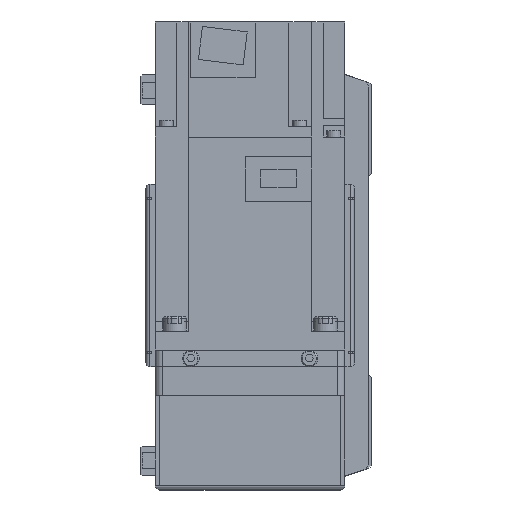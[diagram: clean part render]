
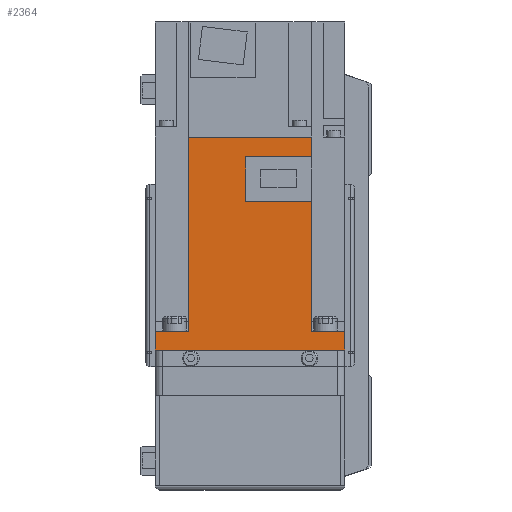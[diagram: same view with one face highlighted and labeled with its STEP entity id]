
A CAD part, left-side view. The second image highlights one B-rep face of the part: STEP entity #2364.
In plain terms, the highlighted planar face has unit normal (-1, 0, 0) as drawn and (1, 0, 0) by its records, which use the part's own axes.
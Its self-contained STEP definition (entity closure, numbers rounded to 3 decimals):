
#2364 = ADVANCED_FACE( '', ( #5318 ), #5319, .F. );
#5318 = FACE_OUTER_BOUND( '', #8874, .T. );
#5319 = PLANE( '', #8875 );
#8874 = EDGE_LOOP( '', ( #15612, #15613, #15614, #15615, #15616, #15617, #15618, #15619, #15620, #15621, #15622, #15623 ) );
#8875 = AXIS2_PLACEMENT_3D( '', #15624, #15625, #15626 );
#15612 = ORIENTED_EDGE( '', *, *, #22641, .F. );
#15613 = ORIENTED_EDGE( '', *, *, #22180, .F. );
#15614 = ORIENTED_EDGE( '', *, *, #20570, .F. );
#15615 = ORIENTED_EDGE( '', *, *, #22642, .T. );
#15616 = ORIENTED_EDGE( '', *, *, #22643, .F. );
#15617 = ORIENTED_EDGE( '', *, *, #22644, .T. );
#15618 = ORIENTED_EDGE( '', *, *, #22645, .T. );
#15619 = ORIENTED_EDGE( '', *, *, #20221, .F. );
#15620 = ORIENTED_EDGE( '', *, *, #20791, .F. );
#15621 = ORIENTED_EDGE( '', *, *, #22182, .F. );
#15622 = ORIENTED_EDGE( '', *, *, #22646, .F. );
#15623 = ORIENTED_EDGE( '', *, *, #21043, .F. );
#15624 = CARTESIAN_POINT( '', ( 40., 89.8, 40. ) );
#15625 = DIRECTION( '', ( -1., 0., 0. ) );
#15626 = DIRECTION( '', ( 0., 0., 1. ) );
#20221 = EDGE_CURVE( '', #24055, #24057, #24058, .T. );
#20570 = EDGE_CURVE( '', #24665, #24661, #24667, .T. );
#20791 = EDGE_CURVE( '', #25057, #24055, #25058, .T. );
#21043 = EDGE_CURVE( '', #25488, #25489, #25490, .T. );
#22180 = EDGE_CURVE( '', #24661, #27273, #27274, .T. );
#22182 = EDGE_CURVE( '', #27275, #25057, #27277, .T. );
#22641 = EDGE_CURVE( '', #27273, #25488, #27924, .T. );
#22642 = EDGE_CURVE( '', #24665, #27925, #27926, .T. );
#22643 = EDGE_CURVE( '', #27927, #27925, #27928, .T. );
#22644 = EDGE_CURVE( '', #27927, #27929, #27930, .T. );
#22645 = EDGE_CURVE( '', #27929, #24057, #27931, .T. );
#22646 = EDGE_CURVE( '', #25489, #27275, #27932, .T. );
#24055 = VERTEX_POINT( '', #29789 );
#24057 = VERTEX_POINT( '', #29792 );
#24058 = LINE( '', #29793, #29794 );
#24661 = VERTEX_POINT( '', #30738 );
#24665 = VERTEX_POINT( '', #30744 );
#24667 = LINE( '', #30747, #30748 );
#25057 = VERTEX_POINT( '', #31360 );
#25058 = LINE( '', #31361, #31362 );
#25488 = VERTEX_POINT( '', #31928 );
#25489 = VERTEX_POINT( '', #31929 );
#25490 = LINE( '', #31930, #31931 );
#27273 = VERTEX_POINT( '', #34675 );
#27274 = LINE( '', #34676, #34677 );
#27275 = VERTEX_POINT( '', #34678 );
#27277 = LINE( '', #34681, #34682 );
#27924 = LINE( '', #35759, #35760 );
#27925 = VERTEX_POINT( '', #35761 );
#27926 = LINE( '', #35762, #35763 );
#27927 = VERTEX_POINT( '', #35764 );
#27928 = LINE( '', #35765, #35766 );
#27929 = VERTEX_POINT( '', #35767 );
#27930 = LINE( '', #35768, #35769 );
#27931 = LINE( '', #35770, #35771 );
#27932 = LINE( '', #35772, #35773 );
#29789 = CARTESIAN_POINT( '', ( 40., 8., -40. ) );
#29792 = CARTESIAN_POINT( '', ( 40., 0., -40. ) );
#29793 = CARTESIAN_POINT( '', ( 40., 89.8, -40. ) );
#29794 = VECTOR( '', #37771, 1000. );
#30738 = CARTESIAN_POINT( '', ( 40., 89.8, -25.95 ) );
#30744 = CARTESIAN_POINT( '', ( 40., 89.8, 25.95 ) );
#30747 = CARTESIAN_POINT( '', ( 40., 89.8, 40. ) );
#30748 = VECTOR( '', #38171, 1000. );
#31360 = CARTESIAN_POINT( '', ( 40., 8., -25.95 ) );
#31361 = CARTESIAN_POINT( '', ( 40., 8., 40. ) );
#31362 = VECTOR( '', #38466, 1000. );
#31928 = CARTESIAN_POINT( '', ( 40., 81.4, 1.8 ) );
#31929 = CARTESIAN_POINT( '', ( 40., 62.8, 1.8 ) );
#31930 = CARTESIAN_POINT( '', ( 40., 81.4, 1.8 ) );
#31931 = VECTOR( '', #38832, 1000. );
#34675 = CARTESIAN_POINT( '', ( 40., 81.4, -25.95 ) );
#34676 = CARTESIAN_POINT( '', ( 40., 158., -25.95 ) );
#34677 = VECTOR( '', #40316, 1000. );
#34678 = CARTESIAN_POINT( '', ( 40., 62.8, -25.95 ) );
#34681 = CARTESIAN_POINT( '', ( 40., 158., -25.95 ) );
#34682 = VECTOR( '', #40318, 1000. );
#35759 = CARTESIAN_POINT( '', ( 40., 81.4, -26. ) );
#35760 = VECTOR( '', #40878, 1000. );
#35761 = CARTESIAN_POINT( '', ( 40., 8., 25.95 ) );
#35762 = CARTESIAN_POINT( '', ( 40., 158., 25.95 ) );
#35763 = VECTOR( '', #40879, 1000. );
#35764 = CARTESIAN_POINT( '', ( 40., 8., 40. ) );
#35765 = CARTESIAN_POINT( '', ( 40., 8., 40. ) );
#35766 = VECTOR( '', #40880, 1000. );
#35767 = CARTESIAN_POINT( '', ( 40., 0., 40. ) );
#35768 = CARTESIAN_POINT( '', ( 40., 89.8, 40. ) );
#35769 = VECTOR( '', #40881, 1000. );
#35770 = CARTESIAN_POINT( '', ( 40., 0., 40. ) );
#35771 = VECTOR( '', #40882, 1000. );
#35772 = CARTESIAN_POINT( '', ( 40., 62.8, 1.8 ) );
#35773 = VECTOR( '', #40883, 1000. );
#37771 = DIRECTION( '', ( 0., -1., 0. ) );
#38171 = DIRECTION( '', ( 0., 0., -1. ) );
#38466 = DIRECTION( '', ( 0., 0., -1. ) );
#38832 = DIRECTION( '', ( 0., -1., 0. ) );
#40316 = DIRECTION( '', ( 0., -1., 0. ) );
#40318 = DIRECTION( '', ( 0., -1., 0. ) );
#40878 = DIRECTION( '', ( 0., 0., 1. ) );
#40879 = DIRECTION( '', ( 0., -1., 0. ) );
#40880 = DIRECTION( '', ( 0., 0., -1. ) );
#40881 = DIRECTION( '', ( 0., -1., 0. ) );
#40882 = DIRECTION( '', ( 0., 0., -1. ) );
#40883 = DIRECTION( '', ( 0., 0., -1. ) );
